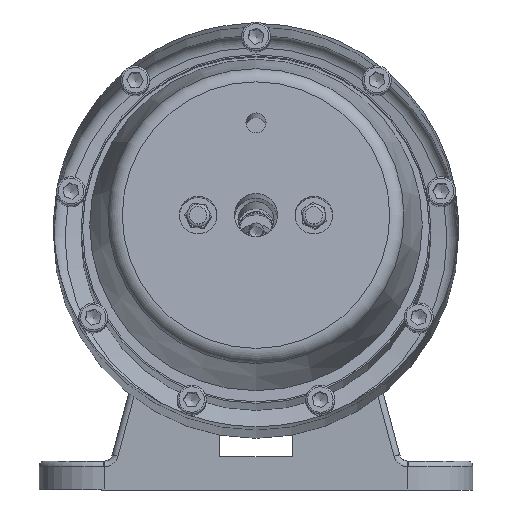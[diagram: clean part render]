
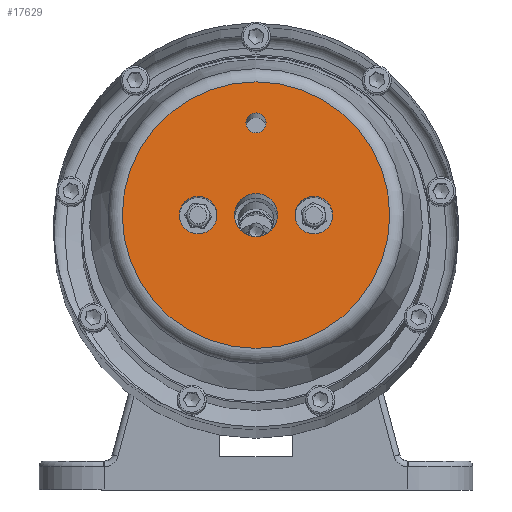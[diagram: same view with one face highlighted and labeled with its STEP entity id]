
A CAD part, front view. The second image highlights one B-rep face of the part: STEP entity #17629.
In plain terms, the highlighted planar face has unit normal (0, -0.996, 0.086).
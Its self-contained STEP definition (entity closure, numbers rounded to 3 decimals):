
#232=FACE_BOUND('',#2901,.T.);
#233=FACE_BOUND('',#2902,.T.);
#234=FACE_BOUND('',#2903,.T.);
#235=FACE_BOUND('',#2904,.T.);
#813=CIRCLE('',#18622,3.459);
#814=CIRCLE('',#18623,3.459);
#817=CIRCLE('',#18628,6.5);
#818=CIRCLE('',#18629,6.5);
#833=CIRCLE('',#18649,6.5);
#834=CIRCLE('',#18650,6.5);
#873=CIRCLE('',#18708,7.475);
#874=CIRCLE('',#18709,7.475);
#892=CIRCLE('',#18730,46.251);
#893=CIRCLE('',#18731,46.251);
#1956=FACE_OUTER_BOUND('',#2900,.T.);
#2900=EDGE_LOOP('',(#11371,#11372));
#2901=EDGE_LOOP('',(#11373,#11374));
#2902=EDGE_LOOP('',(#11375,#11376));
#2903=EDGE_LOOP('',(#11377,#11378));
#2904=EDGE_LOOP('',(#11379,#11380));
#6605=VERTEX_POINT('',#28819);
#6606=VERTEX_POINT('',#28820);
#6615=VERTEX_POINT('',#28842);
#6616=VERTEX_POINT('',#28843);
#6638=VERTEX_POINT('',#28940);
#6639=VERTEX_POINT('',#28941);
#6678=VERTEX_POINT('',#29050);
#6679=VERTEX_POINT('',#29051);
#6693=VERTEX_POINT('',#29090);
#6694=VERTEX_POINT('',#29091);
#8427=EDGE_CURVE('',#6605,#6606,#813,.T.);
#8428=EDGE_CURVE('',#6606,#6605,#814,.T.);
#8438=EDGE_CURVE('',#6615,#6616,#817,.T.);
#8439=EDGE_CURVE('',#6616,#6615,#818,.T.);
#8466=EDGE_CURVE('',#6638,#6639,#833,.T.);
#8467=EDGE_CURVE('',#6639,#6638,#834,.T.);
#8517=EDGE_CURVE('',#6678,#6679,#873,.T.);
#8518=EDGE_CURVE('',#6679,#6678,#874,.T.);
#8539=EDGE_CURVE('',#6693,#6694,#892,.T.);
#8540=EDGE_CURVE('',#6694,#6693,#893,.T.);
#11371=ORIENTED_EDGE('',*,*,#8539,.T.);
#11372=ORIENTED_EDGE('',*,*,#8540,.T.);
#11373=ORIENTED_EDGE('',*,*,#8427,.T.);
#11374=ORIENTED_EDGE('',*,*,#8428,.T.);
#11375=ORIENTED_EDGE('',*,*,#8438,.T.);
#11376=ORIENTED_EDGE('',*,*,#8439,.T.);
#11377=ORIENTED_EDGE('',*,*,#8466,.T.);
#11378=ORIENTED_EDGE('',*,*,#8467,.T.);
#11379=ORIENTED_EDGE('',*,*,#8517,.T.);
#11380=ORIENTED_EDGE('',*,*,#8518,.T.);
#16198=PLANE('',#18733);
#17629=ADVANCED_FACE('',(#1956,#232,#233,#234,#235),#16198,.T.);
#18622=AXIS2_PLACEMENT_3D('',#28821,#20880,#20881);
#18623=AXIS2_PLACEMENT_3D('',#28822,#20882,#20883);
#18628=AXIS2_PLACEMENT_3D('',#28844,#20899,#20900);
#18629=AXIS2_PLACEMENT_3D('',#28845,#20901,#20902);
#18649=AXIS2_PLACEMENT_3D('',#28942,#20949,#20950);
#18650=AXIS2_PLACEMENT_3D('',#28943,#20951,#20952);
#18708=AXIS2_PLACEMENT_3D('',#29052,#21078,#21079);
#18709=AXIS2_PLACEMENT_3D('',#29053,#21080,#21081);
#18730=AXIS2_PLACEMENT_3D('',#29092,#21125,#21126);
#18731=AXIS2_PLACEMENT_3D('',#29093,#21127,#21128);
#18733=AXIS2_PLACEMENT_3D('',#29095,#21131,#21132);
#20880=DIRECTION('center_axis',(0.,0.996,
-0.086));
#20881=DIRECTION('ref_axis',(1.,0.,0.));
#20882=DIRECTION('center_axis',(0.,0.996,
-0.086));
#20883=DIRECTION('ref_axis',(1.,0.,0.));
#20899=DIRECTION('center_axis',(0.,0.996,
-0.086));
#20900=DIRECTION('ref_axis',(-1.,0.,0.));
#20901=DIRECTION('center_axis',(0.,0.996,
-0.086));
#20902=DIRECTION('ref_axis',(-1.,0.,0.));
#20949=DIRECTION('center_axis',(0.,0.996,
-0.086));
#20950=DIRECTION('ref_axis',(1.,0.,0.));
#20951=DIRECTION('center_axis',(0.,0.996,
-0.086));
#20952=DIRECTION('ref_axis',(1.,0.,0.));
#21078=DIRECTION('center_axis',(0.,0.996,
-0.086));
#21079=DIRECTION('ref_axis',(1.,0.,0.));
#21080=DIRECTION('center_axis',(0.,0.996,
-0.086));
#21081=DIRECTION('ref_axis',(1.,0.,0.));
#21125=DIRECTION('center_axis',(0.,-0.996,
0.086));
#21126=DIRECTION('ref_axis',(0.,0.086,0.996));
#21127=DIRECTION('center_axis',(0.,-0.996,
0.086));
#21128=DIRECTION('ref_axis',(0.,0.086,0.996));
#21131=DIRECTION('center_axis',(0.,-0.996,
0.086));
#21132=DIRECTION('ref_axis',(1.,0.,0.));
#28819=CARTESIAN_POINT('',(3.459,-168.449,133.204));
#28820=CARTESIAN_POINT('',(-3.458,-168.449,133.204));
#28821=CARTESIAN_POINT('Origin',(0.,-168.449,
133.204));
#28822=CARTESIAN_POINT('Origin',(0.,-168.449,
133.204));
#28842=CARTESIAN_POINT('',(13.5,-171.19,101.322));
#28843=CARTESIAN_POINT('',(26.5,-171.19,101.322));
#28844=CARTESIAN_POINT('Origin',(20.,-171.19,101.322));
#28845=CARTESIAN_POINT('Origin',(20.,-171.19,101.322));
#28940=CARTESIAN_POINT('',(-13.5,-171.19,101.322));
#28941=CARTESIAN_POINT('',(-26.5,-171.19,101.322));
#28942=CARTESIAN_POINT('Origin',(-20.,-171.19,101.322));
#28943=CARTESIAN_POINT('Origin',(-20.,-171.19,101.322));
#29050=CARTESIAN_POINT('',(7.475,-171.19,101.322));
#29051=CARTESIAN_POINT('',(-7.475,-171.19,101.322));
#29052=CARTESIAN_POINT('Origin',(0.,-171.19,
101.322));
#29053=CARTESIAN_POINT('Origin',(0.,-171.19,
101.322));
#29090=CARTESIAN_POINT('',(0.,-167.229,147.403));
#29091=CARTESIAN_POINT('',(-46.251,-171.19,101.322));
#29092=CARTESIAN_POINT('Origin',(0.,-171.19,
101.322));
#29093=CARTESIAN_POINT('Origin',(0.,-171.19,
101.322));
#29095=CARTESIAN_POINT('Origin',(0.,-169.209,
124.363));
